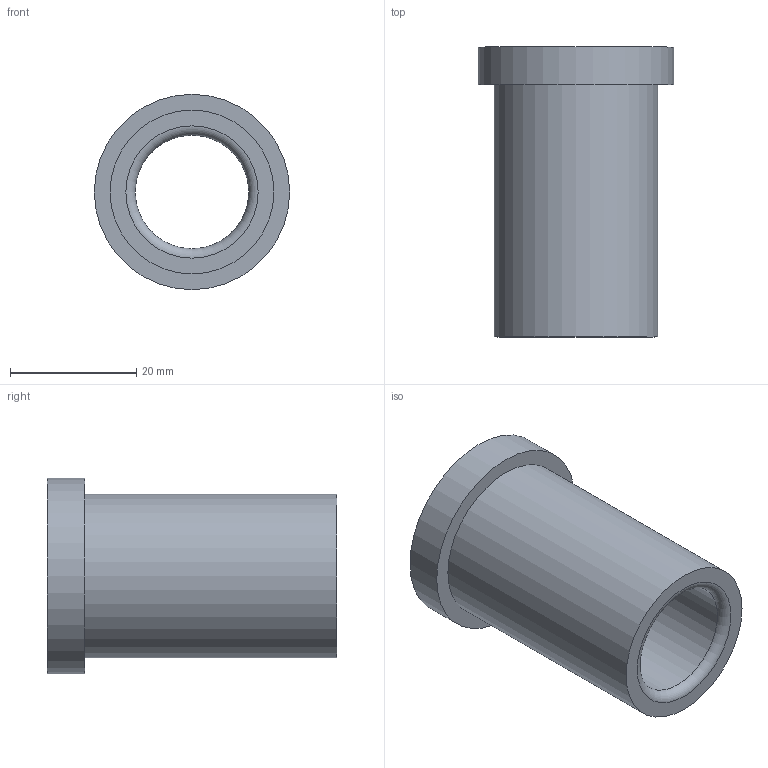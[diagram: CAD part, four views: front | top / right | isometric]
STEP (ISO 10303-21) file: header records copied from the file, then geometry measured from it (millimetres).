
FILE_DESCRIPTION(/* description */ ('STEP AP214'),/* implementation_level */ '2;1');
FILE_NAME(/* name */ '03_12_17919',/* time_stamp */ '2023-06-15T11:35:29+02:00',/* author */ ('License CC BY-ND 4.0'),/* organization */ ('CADENAS'),/* preprocessor_version */ 'ST-DEVELOPER v19.3',/* originating_system */ 'PARTsolutions',/* authorisation */ ' ');
FILE_SCHEMA (('AUTOMOTIVE_DESIGN {1 0 10303 214 3 1 1}'));
Length unit declared in the file: millimetre
Products named in the file (1): VA_Bushing_17919
Bounding box: 31 x 46 x 31 mm (x, y, z)
Volume: 13844 mm3; surface area: 7398.7 mm2
Topology: 1 solids, 1 shells, 10 faces, 16 edges, 10 vertices
Faces by surface type: cylinder 4, plane 4, torus 2
Full cylindrical faces by diameter (mm): 18 x1, 18.6 x1, 26 x1, 31 x1
Entity records: 302 total; most frequent: DIRECTION 42, CARTESIAN_POINT 31, AXIS2_PLACEMENT_3D 21, ORIENTED_EDGE 20, EDGE_LOOP 20, FACE_BOUND 20, EDGE_CURVE 10, VERTEX_POINT 10
